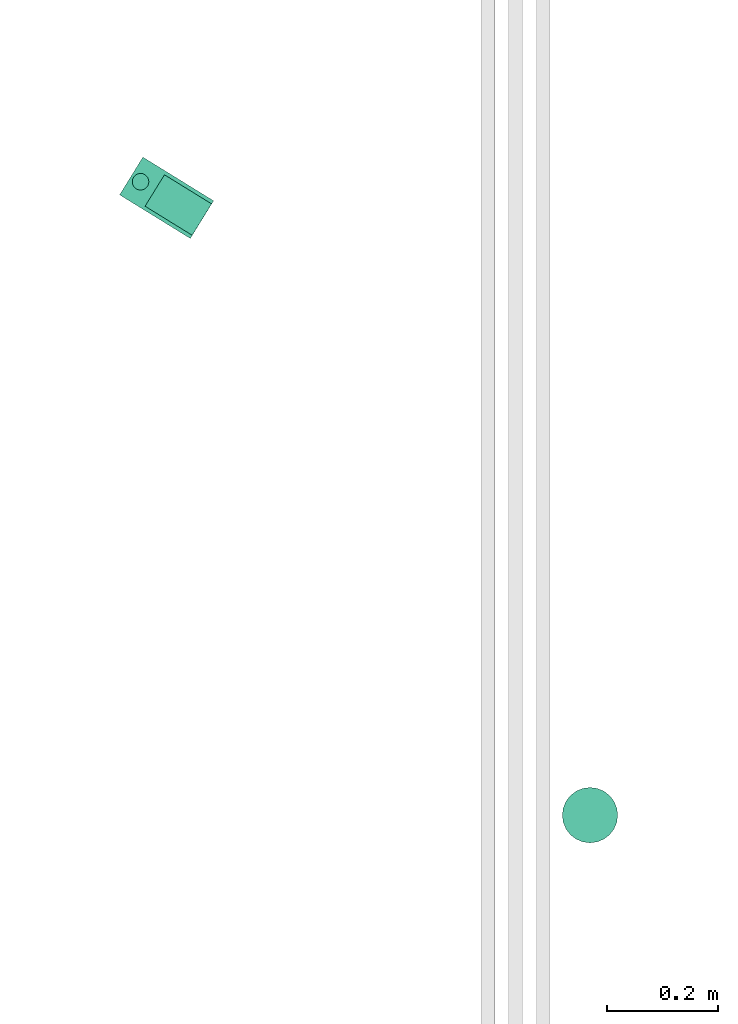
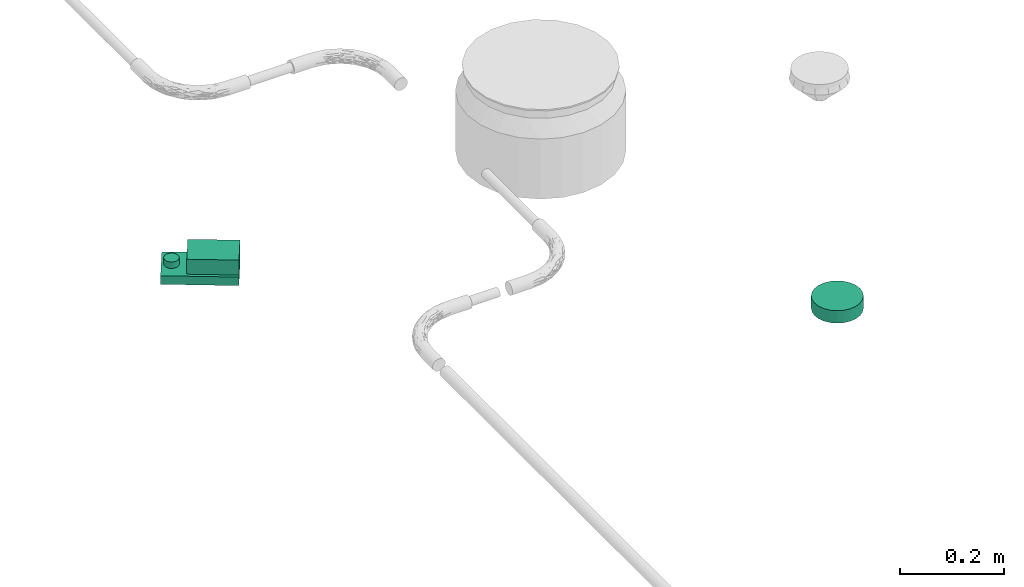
# One storey, part 8 of 51: 2 distribution control elements.
"""IFC2X3 building model written with IfcOpenShell, lengths in millimetres."""

from ifc_helpers import new_model, entity, si_unit, converted_unit, derived_unit, direction, frame, origin_with_axes, place, context, subcontext, project, spatial, open_shell, surface_model, source, transform, mapped, type_object, element, save


model = new_model("IFC2X3")

# Units and contexts
model_context = context("Model", 3, precision=0.01, world=frame((0.0, 4.29681676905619e-09, 0.0)), true_north=direction((4.01073788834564e-13, 1.0)))
plan_context = context("Plan", 3, precision=0.01, world=frame((0.0, 4.29681676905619e-09, 0.0)), true_north=direction((4.01073788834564e-13, 1.0)))
body_context = subcontext(model_context, "Body", "Model", "MODEL_VIEW")
ifc_project = project(units=[converted_unit("PLANEANGLEUNIT", "DEGREE", entity("IfcPositiveLengthMeasure", 0.0174532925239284), si_unit("PLANEANGLEUNIT", "RADIAN"), dimensions=[0, 0, 0, 0, 0, 0, 0]), si_unit("AREAUNIT", "SQUARE_METRE"), si_unit("LENGTHUNIT", "METRE", prefix="MILLI"), si_unit("MASSUNIT", "GRAM", prefix="KILO"), si_unit("POWERUNIT", "WATT"), si_unit("PRESSUREUNIT", "PASCAL"), si_unit("FORCEUNIT", "NEWTON", prefix="KILO"), si_unit("ELECTRICVOLTAGEUNIT", "VOLT"), si_unit("ELECTRICCURRENTUNIT", "AMPERE"), si_unit("THERMODYNAMICTEMPERATUREUNIT", "DEGREE_CELSIUS"), si_unit("TIMEUNIT", "SECOND"), si_unit("VOLUMEUNIT", "CUBIC_METRE"), derived_unit("LINEARVELOCITYUNIT", [(si_unit("LENGTHUNIT", "METRE"), 1), (si_unit("TIMEUNIT", "SECOND"), -1)]), derived_unit("VOLUMETRICFLOWRATEUNIT", [(si_unit("VOLUMEUNIT", "CUBIC_METRE"), 1), (si_unit("TIMEUNIT", "SECOND"), -1)]), derived_unit("THERMALTRANSMITTANCEUNIT", [(si_unit("POWERUNIT", "WATT"), 1), (si_unit("THERMODYNAMICTEMPERATUREUNIT", "KELVIN"), -1), (si_unit("AREAUNIT", "SQUARE_METRE"), -1)]), derived_unit("SOUNDPRESSUREUNIT", [(si_unit("PRESSUREUNIT", "PASCAL"), 1)])], contexts=[model_context, plan_context])

# Site, building, storey
site_placement = place(None, frame((0.0, -4.29681676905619e-09, 0.0), z_axis=(0.0, 0.0, 1.0), x_axis=(1.0, 0.0, 0.0)))
site = spatial("IfcSite", under=ifc_project, at=site_placement, Name="ENGM", CompositionType="ELEMENT")
building_placement = place(site_placement, frame((0.0, 4.29681676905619e-09, 0.0), z_axis=(0.0, 0.0, 1.0), x_axis=(1.0, 0.0, 0.0)))
building = spatial("IfcBuilding", under=site, at=building_placement, Name="TI", CompositionType="ELEMENT")
storey_placement = place(building_placement, frame((0.0, 0.0, 210900.0), z_axis=(0.0, 0.0, 1.0), x_axis=(1.0, 0.0, 0.0)))
storey = spatial("IfcBuildingStorey", under=building, at=storey_placement, Name="Nivå F", CompositionType="ELEMENT", Elevation=210900.0)

# Distribution control elements
alarm_type_1 = type_object("IfcAlarmType", Name="Standard", PredefinedType="NOTDEFINED")
shared_shape_1 = source(origin_with_axes(), body_context, "Body", "SurfaceModel", [
    surface_model("IfcShellBasedSurfaceModel", [(-25.0, 43.30127, -28.9), (-35.35534, 35.35534, -28.9), (-18.0, 31.17691, -28.9), (-25.45584, 25.45584, -28.9), (-9.31749, 34.77333, -28.9), (-12.94095, 48.29629, -28.9), (0.0, 36.0, -28.9), (0.0, 50.0, -28.9), (-34.77333, 9.31749, -28.9), (-43.30127, 25.0, -28.9), (-48.29629, 12.94095, -28.9), (-36.0, 0.0, -28.9), (-50.0, 0.0, -28.9), (-31.17691, 18.0, -28.9), (9.31749, 34.77333, -28.9), (12.94095, 48.29629, -28.9), (18.0, 31.17691, -28.9), (35.35534, 35.35534, -28.9), (25.0, 43.30127, -28.9), (25.45584, 25.45584, -28.9), (31.17691, 18.0, -28.9), (34.77333, 9.31749, -28.9), (43.30127, 25.0, -28.9), (48.29629, 12.94095, -28.9), (36.0, 0.0, -28.9), (50.0, 0.0, -28.9), (-34.77333, -9.31749, -28.9), (-48.29629, -12.94095, -28.9), (-31.17691, -18.0, -28.9), (-43.30127, -25.0, -28.9), (-25.45584, -25.45584, -28.9), (-35.35534, -35.35534, -28.9), (-18.0, -31.17691, -28.9), (-25.0, -43.30127, -28.9), (-9.31749, -34.77333, -28.9), (-12.94095, -48.29629, -28.9), (0.0, -36.0, -28.9), (0.0, -50.0, -28.9), (43.30127, -25.0, -28.9), (31.17691, -18.0, -28.9), (35.35534, -35.35534, -28.9), (34.77333, -9.31749, -28.9), (48.29629, -12.94095, -28.9), (25.45584, -25.45584, -28.9), (9.31749, -34.77333, -28.9), (12.94095, -48.29629, -28.9), (18.0, -31.17691, -28.9), (25.0, -43.30127, -28.9), (-25.0, -43.30127, -29.1), (-35.35534, -35.35534, -29.1), (-18.0, -31.17691, -29.1), (-25.45584, -25.45584, -29.1), (-9.31749, -34.77333, -29.1), (-12.94095, -48.29629, -29.1), (0.0, -36.0, -29.1), (0.0, -50.0, -29.1), (-34.77333, -9.31749, -29.1), (-43.30127, -25.0, -29.1), (-48.29629, -12.94095, -29.1), (-36.0, 0.0, -29.1), (-50.0, 0.0, -29.1), (-31.17691, -18.0, -29.1), (9.31749, -34.77333, -29.1), (12.94095, -48.29629, -29.1), (18.0, -31.17691, -29.1), (35.35534, -35.35534, -29.1), (25.0, -43.30127, -29.1), (25.45584, -25.45584, -29.1), (31.17691, -18.0, -29.1), (34.77333, -9.31749, -29.1), (43.30127, -25.0, -29.1), (48.29629, -12.94095, -29.1), (36.0, 0.0, -29.1), (50.0, 0.0, -29.1), (-34.77333, 9.31749, -29.1), (-48.29629, 12.94095, -29.1), (-31.17691, 18.0, -29.1), (-43.30127, 25.0, -29.1), (-25.45584, 25.45584, -29.1), (-35.35534, 35.35534, -29.1), (-18.0, 31.17691, -29.1), (-25.0, 43.30127, -29.1), (-9.31749, 34.77333, -29.1), (-12.94095, 48.29629, -29.1), (0.0, 36.0, -29.1), (0.0, 50.0, -29.1), (43.30127, 25.0, -29.1), (31.17691, 18.0, -29.1), (35.35534, 35.35534, -29.1), (34.77333, 9.31749, -29.1), (48.29629, 12.94095, -29.1), (25.45584, 25.45584, -29.1), (9.31749, 34.77333, -29.1), (12.94095, 48.29629, -29.1), (18.0, 31.17691, -29.1), (25.0, 43.30127, -29.1), (6.47048, -24.14815, -44.9), (12.5, -21.65064, -44.9), (17.67767, -17.67767, -44.9), (24.14815, -6.47048, -44.9), (-24.14815, -6.47048, -44.9), (21.65064, -12.5, -44.9), (-21.65064, 12.5, -44.9), (0.0, -25.0, -44.9), (-12.5, -21.65064, -44.9), (-6.47048, -24.14815, -44.9), (-17.67767, -17.67767, -44.9), (-21.65064, -12.5, -44.9), (25.0, 0.0, -44.9), (24.14815, 6.47048, -44.9), (21.65064, 12.5, -44.9), (17.67767, 17.67767, -44.9), (12.5, 21.65064, -44.9), (6.47048, 24.14815, -44.9), (0.0, 25.0, -44.9), (-25.0, 0.0, -44.9), (-24.14815, 6.47048, -44.9), (-12.5, 21.65064, -44.9), (-17.67767, 17.67767, -44.9), (-6.47048, 24.14815, -44.9), (0.0, 25.0, -45.1), (6.47048, 24.14815, -45.1), (12.5, 21.65064, -45.1), (-21.65064, 12.5, -45.1), (17.67767, 17.67767, -45.1), (21.65064, 12.5, -45.1), (24.14815, 6.47048, -45.1), (-12.5, 21.65064, -45.1), (-17.67767, 17.67767, -45.1), (-6.47048, 24.14815, -45.1), (-25.0, 0.0, -45.1), (-24.14815, 6.47048, -45.1), (-24.14815, -6.47048, -45.1), (24.14815, -6.47048, -45.1), (6.47048, -24.14815, -45.1), (21.65064, -12.5, -45.1), (17.67767, -17.67767, -45.1), (12.5, -21.65064, -45.1), (-12.5, -21.65064, -45.1), (-17.67767, -17.67767, -45.1), (-21.65064, -12.5, -45.1), (0.0, -25.0, -45.1), (-6.47048, -24.14815, -45.1), (25.0, 0.0, -45.1), (-1.46739, 34.60682, -29.0), (0.0, 34.8, -29.0), (0.0, 35.0, -29.0), (-34.60682, 1.46739, -29.0), (-35.0, 0.0, -29.0), (-34.8, 0.0, -29.0), (-17.5, 30.31089, -29.0), (-18.5742, 29.23669, -29.0), (-17.4, 30.13768, -29.0), (-24.60732, -24.60732, -29.0), (-18.5742, -29.23669, -29.0), (-29.23669, -18.5742, -29.0), (34.8, 0.0, -29.0), (34.60682, -1.46739, -29.0), (35.0, 0.0, -29.0), (17.4, 30.13768, -29.0), (17.5, 30.31089, -29.0), (16.03261, 30.70407, -29.0), (30.13768, 17.4, -29.0), (30.31089, 17.5, -29.0), (29.23669, 18.5742, -29.0), (34.60682, 1.46739, -29.0), (33.61422, -9.0069, -29.0), (30.70407, -16.03261, -29.0), (-33.61422, -9.0069, -29.0), (-30.70407, -16.03261, -29.0), (-34.60682, -1.46739, -29.0), (-30.13768, -17.4, -29.0), (-30.31089, -17.5, -29.0), (-17.5, -30.31089, -29.0), (-17.4, -30.13768, -29.0), (-1.46739, -34.60682, -29.0), (0.0, -35.0, -29.0), (0.0, -34.8, -29.0), (-16.03261, -30.70407, -29.0), (-9.0069, -33.61422, -29.0), (1.46739, -34.60682, -29.0), (30.13768, -17.4, -29.0), (29.23669, -18.5742, -29.0), (30.31089, -17.5, -29.0), (24.60732, -24.60732, -29.0), (18.5742, -29.23669, -29.0), (9.0069, -33.61422, -29.0), (16.03261, -30.70407, -29.0), (-30.13768, 17.4, -29.0), (-30.31089, 17.5, -29.0), (-30.70407, 16.03261, -29.0), (17.4, -30.13768, -29.0), (17.5, -30.31089, -29.0), (-33.61422, 9.0069, -29.0), (-29.23669, 18.5742, -29.0), (-24.60732, 24.60732, -29.0), (-16.03261, 30.70407, -29.0), (-9.0069, 33.61422, -29.0), (1.46739, 34.60682, -29.0), (9.0069, 33.61422, -29.0), (18.5742, 29.23669, -29.0), (24.60732, 24.60732, -29.0), (30.70407, 16.03261, -29.0), (33.61422, 9.0069, -29.0), (23.00389, 18.55381, -38.25), (14.9, 25.80756, -38.25), (21.07178, 21.07178, -38.25), (29.66376, 1.03484, -38.25), (30.0, 0.0, -38.25), (29.8, 0.0, -38.25), (24.27051, 17.63356, -38.25), (24.68215, 16.36666, -38.25), (10.52665, 27.61906, -38.25), (28.78459, 7.71281, -38.25), (-10.52665, 27.61906, -38.25), (-23.00389, 18.55381, -38.25), (-14.9, 25.80756, -38.25), (8.32335, 28.5317, -38.25), (0.0, 29.8, -38.25), (7.71281, 28.78459, -38.25), (-8.32335, 28.5317, -38.25), (-24.68215, 16.36666, -38.25), (-28.78459, 7.71281, -38.25), (-25.80756, 14.9, -38.25), (-9.27051, 28.5317, -38.25), (-29.66376, 1.03484, -38.25), (-29.8, 0.0, -38.25), (-30.0, 0.0, -38.25), (-28.78459, -7.71281, -38.25), (-24.68215, -16.36666, -38.25), (-25.80756, -14.9, -38.25), (29.66376, -1.03484, -38.25), (-7.71281, 28.78459, -38.25), (25.80756, 14.9, -38.25), (14.9, -25.80756, -38.25), (10.52665, -27.61906, -38.25), (23.00389, -18.55381, -38.25), (28.78459, -7.71281, -38.25), (24.68215, -16.36666, -38.25), (0.0, -29.8, -38.25), (-7.71281, -28.78459, -38.25), (-8.32335, -28.5317, -38.25), (8.32335, -28.5317, -38.25), (9.27051, 28.5317, -38.25), (-29.66376, -1.03484, -38.25), (21.07178, -21.07178, -38.25), (-23.00389, -18.55381, -38.25), (-24.27051, -17.63356, -38.25), (-9.27051, -28.5317, -38.25), (-10.52665, -27.61906, -38.25), (-21.07178, -21.07178, -38.25), (-14.9, -25.80756, -38.25), (9.27051, -28.5317, -38.25), (7.71281, -28.78459, -38.25), (24.27051, -17.63356, -38.25), (25.80756, -14.9, -38.25), (-21.07178, 21.07178, -38.25), (-24.27051, 17.63356, -38.25), (33.28589, -6.39713, -29.0), (27.13526, -8.81678, -38.25), (-16.77051, -23.08263, -38.25), (-23.90544, -23.90544, -29.0), (-27.13526, -8.81678, -38.25), (-33.28589, -6.39713, -29.0), (16.77051, -23.08263, -38.25), (8.75, -32.65544, -29.0), (0.0, -28.5317, -38.25), (23.90544, -23.90544, -29.0), (-8.75, -32.65544, -29.0), (-33.28589, 6.39713, -29.0), (-27.13526, 8.81678, -38.25), (16.77051, 23.08263, -38.25), (23.90544, 23.90544, -29.0), (27.13526, 8.81678, -38.25), (33.28589, 6.39713, -29.0), (-16.77051, 23.08263, -38.25), (-8.75, 32.65544, -29.0), (0.0, 28.5317, -38.25), (-23.90544, 23.90544, -29.0), (8.75, 32.65544, -29.0), (12.4, 21.47743, -45.0), (17.53625, 17.53625, -45.0), (19.07577, 15.5299, -45.0), (20.22543, 14.69463, -45.0), (20.59905, 13.54472, -45.0), (24.66376, 1.03484, -45.0), (25.0, 0.0, -45.0), (24.8, 0.0, -45.0), (8.88673, 22.93267, -45.0), (23.95496, 6.41871, -45.0), (-8.88673, 22.93267, -45.0), (-19.07577, 15.5299, -45.0), (-12.4, 21.47743, -45.0), (6.84976, 23.77641, -45.0), (0.0, 24.8, -45.0), (6.41871, 23.95496, -45.0), (-7.72542, 23.77641, -45.0), (-6.84976, 23.77641, -45.0), (-21.47743, 12.4, -45.0), (-20.59905, 13.54472, -45.0), (-23.95496, 6.41871, -45.0), (-25.0, 0.0, -45.0), (-24.66376, 1.03484, -45.0), (-24.8, 0.0, -45.0), (-23.95496, -6.41871, -45.0), (-20.59905, -13.54472, -45.0), (-21.47743, -12.4, -45.0), (-6.41871, 23.95496, -45.0), (24.66376, -1.03484, -45.0), (21.47743, 12.4, -45.0), (12.4, -21.47743, -45.0), (8.88673, -22.93267, -45.0), (19.07577, -15.5299, -45.0), (23.95496, -6.41871, -45.0), (20.59905, -13.54472, -45.0), (0.0, -24.8, -45.0), (-6.41871, -23.95496, -45.0), (-6.84976, -23.77641, -45.0), (7.72542, -23.77641, -45.0), (6.84976, -23.77641, -45.0), (7.72542, 23.77641, -45.0), (-24.66376, -1.03484, -45.0), (17.53625, -17.53625, -45.0), (-20.22543, -14.69463, -45.0), (-19.07577, -15.5299, -45.0), (-8.88673, -22.93267, -45.0), (-7.72542, -23.77641, -45.0), (-17.53625, -17.53625, -45.0), (-12.4, -21.47743, -45.0), (6.41871, -23.95496, -45.0), (20.22543, -14.69463, -45.0), (21.47743, -12.4, -45.0), (-17.53625, 17.53625, -45.0), (-20.22543, 14.69463, -45.0), (-22.61271, -7.34732, -45.0), (-13.97542, -19.23552, -45.0), (0.0, -23.77641, -45.0), (21.83768, -9.73262, -45.0), (13.97542, -19.23552, -45.0), (23.41884, -4.86631, -45.0), (22.61271, 7.34732, -45.0), (13.97542, 19.23552, -45.0), (0.0, 23.77641, -45.0), (-21.83768, 9.73262, -45.0), (-13.97542, 19.23552, -45.0), (-23.41884, 4.86631, -45.0), (12.94095, -48.29629, 0.0), (25.0, -43.30127, 0.0), (35.35534, -35.35534, 0.0), (48.29629, -12.94095, 0.0), (-48.29629, -12.94095, 0.0), (43.30127, -25.0, 0.0), (-43.30127, 25.0, 0.0), (0.0, -50.0, 0.0), (-25.0, -43.30127, 0.0), (-12.94095, -48.29629, 0.0), (-35.35534, -35.35534, 0.0), (-43.30127, -25.0, 0.0), (50.0, 0.0, 0.0), (48.29629, 12.94095, 0.0), (43.30127, 25.0, 0.0), (35.35534, 35.35534, 0.0), (25.0, 43.30127, 0.0), (12.94095, 48.29629, 0.0), (0.0, 50.0, 0.0), (-50.0, 0.0, 0.0), (-48.29629, 12.94095, 0.0), (-25.0, 43.30127, 0.0), (-35.35534, 35.35534, 0.0), (-12.94095, 48.29629, 0.0), (0.0, 50.0, -29.0), (12.94095, 48.29629, -29.0), (25.0, 43.30127, -29.0), (-43.30127, 25.0, -29.0), (35.35534, 35.35534, -29.0), (43.30127, 25.0, -29.0), (48.29629, 12.94095, -29.0), (-25.0, 43.30127, -29.0), (-35.35534, 35.35534, -29.0), (-12.94095, 48.29629, -29.0), (-50.0, 0.0, -29.0), (-48.29629, 12.94095, -29.0), (-48.29629, -12.94095, -29.0), (48.29629, -12.94095, -29.0), (12.94095, -48.29629, -29.0), (43.30127, -25.0, -29.0), (35.35534, -35.35534, -29.0), (25.0, -43.30127, -29.0), (-25.0, -43.30127, -29.0), (-35.35534, -35.35534, -29.0), (-43.30127, -25.0, -29.0), (0.0, -50.0, -29.0), (-12.94095, -48.29629, -29.0), (50.0, 0.0, -29.0)], [open_shell([[[0, 1, 2]], [[2, 1, 3]], [[0, 2, 4]], [[5, 4, 6]], [[4, 5, 0]], [[5, 6, 7]], [[8, 9, 10]], [[11, 10, 12]], [[8, 10, 11]], [[13, 3, 9]], [[8, 13, 9]], [[9, 3, 1]], [[7, 14, 15]], [[14, 7, 6]], [[15, 14, 16]], [[17, 18, 19]], [[16, 18, 15]], [[19, 18, 16]], [[20, 21, 22]], [[20, 22, 17]], [[21, 23, 22]], [[23, 21, 24]], [[23, 24, 25]], [[20, 17, 19]], [[26, 12, 27]], [[28, 27, 29]], [[28, 26, 27]], [[30, 28, 29]], [[29, 31, 30]], [[32, 31, 33]], [[31, 32, 30]], [[32, 33, 34]], [[34, 35, 36]], [[35, 34, 33]], [[36, 35, 37]], [[38, 39, 40]], [[41, 39, 42]], [[41, 42, 25]], [[42, 39, 38]], [[39, 43, 40]], [[25, 24, 41]], [[44, 37, 45]], [[37, 44, 36]], [[44, 45, 46]], [[47, 40, 43]], [[47, 46, 45]], [[47, 43, 46]], [[26, 11, 12]], [[48, 49, 50]], [[50, 49, 51]], [[48, 50, 52]], [[53, 52, 54]], [[52, 53, 48]], [[53, 54, 55]], [[56, 57, 58]], [[59, 58, 60]], [[56, 58, 59]], [[61, 51, 57]], [[56, 61, 57]], [[57, 51, 49]], [[55, 62, 63]], [[62, 55, 54]], [[63, 62, 64]], [[65, 66, 67]], [[64, 66, 63]], [[67, 66, 64]], [[68, 69, 70]], [[68, 70, 65]], [[69, 71, 70]], [[71, 69, 72]], [[71, 72, 73]], [[68, 65, 67]], [[74, 60, 75]], [[76, 75, 77]], [[76, 74, 75]], [[78, 76, 77]], [[77, 79, 78]], [[80, 79, 81]], [[79, 80, 78]], [[80, 81, 82]], [[82, 83, 84]], [[83, 82, 81]], [[84, 83, 85]], [[86, 87, 88]], [[89, 87, 90]], [[89, 90, 73]], [[90, 87, 86]], [[87, 91, 88]], [[73, 72, 89]], [[92, 85, 93]], [[85, 92, 84]], [[92, 93, 94]], [[95, 88, 91]], [[95, 94, 93]], [[95, 91, 94]], [[74, 59, 60]], [[11, 59, 8]], [[8, 74, 13]], [[2, 3, 78]], [[76, 3, 13]], [[4, 2, 80]], [[74, 76, 13]], [[8, 59, 74]], [[84, 6, 82]], [[4, 80, 82]], [[80, 2, 78]], [[3, 76, 78]], [[4, 82, 6]], [[14, 92, 16]], [[16, 94, 19]], [[21, 20, 87]], [[91, 20, 19]], [[24, 21, 89]], [[92, 94, 16]], [[14, 84, 92]], [[21, 87, 89]], [[87, 20, 91]], [[19, 94, 91]], [[24, 89, 72]], [[6, 84, 14]], [[24, 72, 41]], [[41, 69, 39]], [[46, 43, 67]], [[68, 43, 39]], [[44, 46, 64]], [[69, 68, 39]], [[41, 72, 69]], [[54, 36, 62]], [[44, 64, 62]], [[64, 46, 67]], [[43, 68, 67]], [[44, 62, 36]], [[34, 52, 32]], [[32, 50, 30]], [[26, 28, 61]], [[51, 28, 30]], [[11, 26, 56]], [[52, 50, 32]], [[34, 54, 52]], [[26, 61, 56]], [[61, 28, 51]], [[30, 50, 51]], [[11, 56, 59]], [[36, 54, 34]], [[58, 27, 60]], [[57, 29, 58]], [[33, 49, 48]], [[57, 49, 31]], [[35, 48, 53]], [[58, 29, 27]], [[27, 12, 60]], [[35, 33, 48]], [[31, 49, 33]], [[31, 29, 57]], [[37, 35, 53]], [[53, 55, 37]], [[63, 45, 55]], [[66, 47, 63]], [[38, 65, 70]], [[66, 65, 40]], [[42, 70, 71]], [[66, 40, 47]], [[47, 45, 63]], [[25, 42, 71]], [[38, 70, 42]], [[38, 40, 65]], [[73, 25, 71]], [[55, 45, 37]], [[90, 23, 73]], [[86, 22, 90]], [[18, 88, 95]], [[86, 88, 17]], [[15, 95, 93]], [[90, 22, 23]], [[23, 25, 73]], [[15, 18, 95]], [[17, 88, 18]], [[17, 22, 86]], [[7, 15, 93]], [[93, 85, 7]], [[83, 5, 85]], [[81, 0, 83]], [[9, 79, 77]], [[81, 79, 1]], [[10, 77, 75]], [[81, 1, 0]], [[0, 5, 83]], [[12, 10, 75]], [[9, 77, 10]], [[9, 1, 79]], [[60, 12, 75]], [[85, 5, 7]], [[96, 97, 98]], [[96, 98, 99]], [[96, 99, 100]], [[99, 98, 101]], [[102, 100, 99]], [[103, 104, 105]], [[103, 96, 104]], [[106, 100, 107]], [[106, 104, 96]], [[100, 106, 96]], [[99, 108, 102]], [[109, 110, 111]], [[109, 111, 112]], [[112, 113, 114]], [[109, 112, 102]], [[102, 112, 114]], [[115, 102, 116]], [[100, 102, 115]], [[102, 117, 118]], [[117, 102, 119]], [[114, 119, 102]], [[102, 108, 109]], [[120, 121, 122]], [[123, 120, 122]], [[124, 125, 126]], [[124, 126, 122]], [[123, 122, 126]], [[127, 123, 128]], [[123, 127, 129]], [[123, 130, 131]], [[123, 129, 120]], [[123, 132, 130]], [[123, 126, 133]], [[132, 123, 133]], [[134, 133, 135]], [[136, 137, 134]], [[136, 134, 135]], [[138, 133, 134]], [[132, 139, 140]], [[132, 133, 139]], [[138, 141, 142]], [[139, 133, 138]], [[134, 141, 138]], [[133, 126, 143]], [[132, 100, 130]], [[140, 107, 132]], [[104, 139, 138]], [[140, 139, 106]], [[105, 138, 142]], [[132, 107, 100]], [[100, 115, 130]], [[105, 104, 138]], [[106, 139, 104]], [[106, 107, 140]], [[103, 105, 142]], [[142, 141, 103]], [[134, 96, 141]], [[137, 97, 134]], [[101, 136, 135]], [[137, 136, 98]], [[99, 135, 133]], [[137, 98, 97]], [[97, 96, 134]], [[108, 99, 133]], [[101, 135, 99]], [[101, 98, 136]], [[143, 108, 133]], [[141, 96, 103]], [[126, 109, 143]], [[125, 110, 126]], [[112, 124, 122]], [[125, 124, 111]], [[113, 122, 121]], [[126, 110, 109]], [[109, 108, 143]], [[113, 112, 122]], [[111, 124, 112]], [[111, 110, 125]], [[114, 113, 121]], [[121, 120, 114]], [[129, 119, 120]], [[127, 117, 129]], [[102, 128, 123]], [[127, 128, 118]], [[116, 123, 131]], [[127, 118, 117]], [[117, 119, 129]], [[115, 116, 131]], [[102, 123, 116]], [[102, 118, 128]], [[130, 115, 131]], [[120, 119, 114]], [[144, 145, 146]], [[147, 148, 149]], [[150, 151, 152]], [[153, 154, 155]], [[156, 157, 158]], [[159, 160, 161]], [[162, 163, 164]], [[156, 158, 165]], [[166, 157, 167]], [[168, 169, 170]], [[170, 149, 148]], [[171, 169, 172]], [[173, 174, 154]], [[175, 176, 177]], [[174, 173, 178]], [[155, 171, 172]], [[179, 175, 178]], [[180, 177, 176]], [[181, 182, 183]], [[181, 183, 167]], [[184, 182, 185]], [[186, 187, 180]], [[188, 189, 190]], [[191, 192, 185]], [[191, 187, 192]], [[193, 147, 190]], [[188, 194, 189]], [[195, 194, 151]], [[152, 196, 150]], [[197, 196, 144]], [[145, 198, 146]], [[199, 198, 161]], [[159, 200, 160]], [[201, 200, 164]], [[162, 202, 163]], [[203, 202, 165]], [[204, 205, 206]], [[207, 208, 209]], [[204, 210, 211]], [[205, 204, 212]], [[213, 207, 211]], [[214, 215, 216]], [[217, 218, 219]], [[218, 217, 220]], [[221, 222, 223]], [[220, 214, 224]], [[225, 226, 227]], [[228, 229, 230]], [[209, 208, 231]], [[218, 220, 232]], [[213, 211, 233]], [[234, 235, 236]], [[237, 238, 231]], [[239, 240, 241]], [[241, 242, 239]], [[243, 212, 217]], [[227, 226, 244]], [[234, 236, 245]], [[229, 246, 247]], [[241, 248, 249]], [[250, 246, 251]], [[228, 244, 229]], [[235, 252, 242]], [[239, 242, 253]], [[236, 238, 254]], [[238, 237, 255]], [[251, 246, 249]], [[216, 215, 256]], [[215, 221, 257]], [[222, 221, 225]], [[208, 158, 258]], [[183, 259, 258]], [[260, 261, 247]], [[172, 262, 247]], [[263, 227, 262]], [[192, 252, 264]], [[260, 248, 173]], [[261, 260, 173]], [[252, 265, 266]], [[227, 263, 148]], [[172, 263, 262]], [[258, 259, 208]], [[254, 267, 264]], [[268, 173, 248]], [[252, 192, 265]], [[192, 264, 267]], [[267, 254, 183]], [[259, 183, 254]], [[268, 266, 176]], [[265, 176, 266]], [[248, 266, 268]], [[172, 247, 261]], [[227, 148, 269]], [[189, 270, 269]], [[271, 272, 210]], [[163, 273, 210]], [[274, 208, 273]], [[150, 224, 275]], [[271, 243, 160]], [[272, 271, 160]], [[224, 276, 277]], [[208, 274, 158]], [[163, 274, 273]], [[269, 270, 227]], [[257, 278, 275]], [[279, 160, 243]], [[224, 150, 276]], [[150, 275, 278]], [[278, 257, 189]], [[270, 189, 257]], [[279, 277, 146]], [[276, 146, 277]], [[243, 277, 279]], [[163, 210, 272]], [[171, 230, 228]], [[168, 228, 226]], [[179, 240, 251]], [[174, 251, 250]], [[153, 250, 230]], [[168, 171, 228]], [[226, 149, 168]], [[251, 174, 179]], [[174, 250, 153]], [[230, 171, 153]], [[240, 179, 177]], [[177, 239, 240]], [[184, 245, 234]], [[191, 234, 253]], [[156, 209, 237]], [[166, 237, 255]], [[181, 255, 245]], [[239, 186, 253]], [[186, 191, 253]], [[177, 186, 239]], [[184, 181, 245]], [[191, 184, 234]], [[181, 166, 255]], [[166, 156, 237]], [[162, 233, 213]], [[203, 213, 209]], [[199, 219, 205]], [[159, 205, 206]], [[201, 206, 233]], [[203, 162, 213]], [[209, 156, 203]], [[205, 159, 199]], [[159, 206, 201]], [[233, 162, 201]], [[219, 199, 145]], [[145, 218, 219]], [[195, 256, 216]], [[152, 216, 232]], [[149, 226, 222]], [[193, 222, 223]], [[188, 223, 256]], [[218, 197, 232]], [[197, 152, 232]], [[145, 197, 218]], [[195, 188, 256]], [[152, 195, 216]], [[188, 193, 223]], [[193, 149, 222]], [[215, 216, 256]], [[221, 222, 225]], [[225, 227, 226]], [[257, 221, 215]], [[216, 215, 214]], [[212, 204, 205]], [[220, 218, 232]], [[218, 220, 217]], [[217, 212, 243]], [[233, 211, 213]], [[208, 207, 209]], [[237, 238, 255]], [[252, 235, 242]], [[218, 217, 219]], [[227, 244, 226]], [[222, 221, 223]], [[228, 229, 244]], [[239, 253, 242]], [[246, 251, 249]], [[249, 248, 241]], [[231, 238, 237]], [[208, 209, 231]], [[251, 246, 250]], [[254, 238, 236]], [[236, 234, 245]], [[214, 220, 224]], [[242, 241, 239]], [[239, 241, 240]], [[246, 229, 247]], [[230, 229, 228]], [[234, 236, 235]], [[205, 204, 206]], [[204, 211, 210]], [[213, 211, 207]], [[280, 281, 282]], [[282, 283, 284]], [[285, 286, 287]], [[280, 282, 288]], [[289, 285, 284]], [[290, 291, 292]], [[293, 294, 295]], [[290, 296, 297]], [[294, 293, 297]], [[298, 299, 300]], [[301, 302, 303]], [[304, 305, 306]], [[294, 297, 307]], [[308, 287, 286]], [[289, 284, 309]], [[310, 311, 312]], [[313, 314, 308]], [[315, 316, 317]], [[311, 318, 319]], [[293, 320, 288]], [[301, 303, 321]], [[310, 312, 322]], [[323, 305, 324]], [[325, 317, 326]], [[327, 324, 328]], [[304, 321, 305]], [[317, 319, 315]], [[315, 319, 329]], [[312, 314, 330]], [[331, 314, 313]], [[328, 324, 325]], [[292, 291, 332]], [[291, 299, 333]], [[300, 299, 302]], [[262, 301, 334]], [[334, 323, 247]], [[248, 335, 326]], [[301, 262, 227]], [[334, 247, 262]], [[260, 323, 335]], [[266, 248, 326]], [[336, 252, 266]], [[252, 336, 318]], [[323, 260, 247]], [[248, 260, 335]], [[254, 337, 259]], [[318, 264, 252]], [[338, 254, 264]], [[339, 286, 208]], [[264, 318, 338]], [[259, 339, 208]], [[338, 330, 254]], [[266, 326, 336]], [[259, 337, 339]], [[337, 254, 330]], [[273, 286, 340]], [[340, 283, 210]], [[243, 341, 320]], [[286, 273, 208]], [[340, 210, 273]], [[271, 283, 341]], [[277, 243, 320]], [[342, 224, 277]], [[224, 342, 296]], [[283, 271, 210]], [[243, 271, 341]], [[257, 343, 270]], [[296, 275, 224]], [[344, 257, 275]], [[345, 301, 227]], [[275, 296, 344]], [[270, 345, 227]], [[344, 333, 257]], [[277, 320, 342]], [[270, 343, 345]], [[343, 257, 333]], [[230, 306, 304]], [[228, 304, 303]], [[240, 316, 328]], [[251, 328, 327]], [[250, 327, 306]], [[228, 230, 304]], [[303, 226, 228]], [[328, 251, 240]], [[251, 327, 250]], [[306, 230, 250]], [[316, 240, 239]], [[239, 315, 316]], [[245, 322, 310]], [[234, 310, 329]], [[209, 287, 313]], [[237, 313, 331]], [[255, 331, 322]], [[315, 253, 329]], [[253, 234, 329]], [[239, 253, 315]], [[255, 322, 245]], [[234, 245, 310]], [[331, 255, 237]], [[237, 209, 313]], [[233, 309, 289]], [[213, 289, 287]], [[219, 295, 280]], [[205, 280, 281]], [[206, 281, 309]], [[213, 233, 289]], [[287, 209, 213]], [[280, 205, 219]], [[205, 281, 206]], [[309, 233, 206]], [[295, 219, 218]], [[218, 294, 295]], [[256, 332, 292]], [[216, 292, 307]], [[226, 303, 300]], [[222, 300, 298]], [[223, 298, 332]], [[294, 232, 307]], [[232, 216, 307]], [[218, 232, 294]], [[223, 332, 256]], [[216, 256, 292]], [[298, 223, 222]], [[222, 226, 300]], [[346, 347, 348]], [[346, 348, 349]], [[346, 349, 350]], [[349, 348, 351]], [[352, 350, 349]], [[353, 354, 355]], [[353, 346, 354]], [[356, 350, 357]], [[356, 354, 346]], [[350, 356, 346]], [[349, 358, 352]], [[359, 360, 361]], [[359, 361, 362]], [[362, 363, 364]], [[359, 362, 352]], [[352, 362, 364]], [[365, 352, 366]], [[350, 352, 365]], [[352, 367, 368]], [[367, 352, 369]], [[364, 369, 352]], [[352, 358, 359]], [[370, 371, 372]], [[373, 370, 372]], [[374, 375, 376]], [[374, 376, 372]], [[373, 372, 376]], [[377, 373, 378]], [[373, 377, 379]], [[373, 380, 381]], [[373, 379, 370]], [[373, 382, 380]], [[373, 376, 383]], [[382, 373, 383]], [[384, 383, 385]], [[386, 387, 384]], [[386, 384, 385]], [[388, 383, 384]], [[382, 389, 390]], [[382, 383, 389]], [[388, 391, 392]], [[389, 383, 388]], [[384, 391, 388]], [[383, 376, 393]], [[382, 350, 380]], [[390, 357, 382]], [[354, 389, 388]], [[390, 389, 356]], [[355, 388, 392]], [[382, 357, 350]], [[350, 365, 380]], [[355, 354, 388]], [[356, 389, 354]], [[356, 357, 390]], [[353, 355, 392]], [[392, 391, 353]], [[384, 346, 391]], [[387, 347, 384]], [[351, 386, 385]], [[387, 386, 348]], [[349, 385, 383]], [[387, 348, 347]], [[347, 346, 384]], [[358, 349, 383]], [[351, 385, 349]], [[351, 348, 386]], [[393, 358, 383]], [[391, 346, 353]], [[376, 359, 393]], [[375, 360, 376]], [[362, 374, 372]], [[375, 374, 361]], [[363, 372, 371]], [[376, 360, 359]], [[359, 358, 393]], [[363, 362, 372]], [[361, 374, 362]], [[361, 360, 375]], [[364, 363, 371]], [[371, 370, 364]], [[369, 370, 379]], [[367, 379, 377]], [[352, 373, 381]], [[366, 381, 380]], [[379, 367, 369]], [[367, 377, 378]], [[367, 378, 368]], [[368, 378, 352]], [[352, 378, 373]], [[352, 381, 366]], [[380, 365, 366]], [[370, 369, 364]]])]),
])
distribution_control_element_1_placement = place(storey_placement, frame((610109.0, 692660.0, 2760.0), z_axis=(0.0, 0.0, 1.0), x_axis=(1.0, 0.0, 0.0)))
element("IfcDistributionControlElement", 1, at=distribution_control_element_1_placement, inside=storey, type_object=alarm_type_1, Name="Standard", context=body_context, shape_type="MappedRepresentation", body=[
    mapped(shared_shape_1, transform((0.0, 0.0, 0.0), scale=1.0)),
])
alarm_type_2 = type_object("IfcAlarmType", Name="Brann Spjeld", PredefinedType="NOTDEFINED")
shared_shape_2 = source(origin_with_axes(), body_context, "Body", "SurfaceModel", [
    surface_model("IfcShellBasedSurfaceModel", [(-72.68295, -12.99038, 40.0), (-80.18294, -15.0, 40.0), (-76.30066, -14.48889, 40.0), (-65.69406, -3.88229, 40.0), (-69.57634, -10.6066, 40.0), (-94.67183, -3.88229, 40.0), (-95.18294, 0.0, 40.0), (-67.19256, -7.5, 40.0), (-87.68295, -12.99038, 40.0), (-84.06523, -14.48889, 40.0), (-93.17333, -7.5, 40.0), (-90.78954, -10.6066, 40.0), (-65.18294, 0.0, 40.0), (-65.69406, 3.88229, 40.0), (-67.19256, 7.5, 40.0), (-72.68295, 12.99038, 40.0), (-69.57634, 10.6066, 40.0), (-76.30066, 14.48889, 40.0), (-87.68295, 12.99038, 40.0), (-80.18294, 15.0, 40.0), (-93.17333, 7.5, 40.0), (-94.67183, 3.88229, 40.0), (-90.78954, 10.6066, 40.0), (-84.06523, 14.48889, 40.0), (-76.30066, 14.48889, 0.0), (-95.18294, 0.0, 0.0), (-80.18294, 15.0, 0.0), (-67.19256, 7.5, 0.0), (-72.68295, 12.99038, 0.0), (-69.57634, 10.6066, 0.0), (-94.67183, -3.88229, 0.0), (-87.68295, 12.99038, 0.0), (-93.17333, 7.5, 0.0), (-90.78954, 10.6066, 0.0), (-84.06523, 14.48889, 0.0), (-94.67183, 3.88229, 0.0), (-65.69406, 3.88229, 0.0), (-65.69406, -3.88229, 0.0), (-72.68295, -12.99038, 0.0), (-67.19256, -7.5, 0.0), (-69.57634, -10.6066, 0.0), (-76.30066, -14.48889, 0.0), (-93.17333, -7.5, 0.0), (-87.68295, -12.99038, 0.0), (-90.78954, -10.6066, 0.0), (-80.18294, -15.0, 0.0), (-84.06523, -14.48889, 0.0), (-65.18294, 0.0, 0.0), (50.0, -33.30706, 60.0), (50.0, 33.35938, 60.0), (-50.0, 33.35938, 60.0), (-50.0, -33.30706, 60.0), (-50.0, -33.30706, 25.0), (-50.0, 33.35938, 25.0), (50.0, 33.35938, 25.0), (50.0, -33.30706, 25.0), (50.14702, -40.00696, 25.0), (50.14702, 39.99304, 25.0), (-99.85298, 39.99304, 25.0), (-99.85298, -40.00696, 25.0), (-99.85298, -40.00696, 5.0), (-99.85298, 39.99304, 5.0), (50.14702, 39.99304, 5.0), (50.14702, -40.00696, 5.0)], [open_shell([[[0, 1, 2]], [[3, 0, 4]], [[5, 0, 6]], [[3, 4, 7]], [[0, 3, 6]], [[1, 8, 9]], [[8, 1, 5]], [[8, 10, 11]], [[10, 8, 5]], [[1, 0, 5]], [[3, 12, 13]], [[6, 3, 14]], [[15, 14, 16]], [[6, 14, 17]], [[17, 14, 15]], [[18, 17, 19]], [[6, 20, 21]], [[6, 17, 20]], [[20, 18, 22]], [[17, 18, 20]], [[19, 23, 18]], [[14, 3, 13]], [[24, 25, 26]], [[27, 24, 28]], [[25, 24, 27]], [[27, 28, 29]], [[30, 25, 27]], [[31, 32, 33]], [[31, 34, 26]], [[32, 25, 35]], [[32, 31, 26]], [[25, 32, 26]], [[27, 36, 30]], [[30, 36, 37]], [[38, 37, 39]], [[30, 37, 38]], [[38, 39, 40]], [[30, 38, 41]], [[42, 43, 44]], [[43, 42, 30]], [[43, 45, 46]], [[45, 43, 30]], [[30, 41, 45]], [[37, 36, 47]], [[5, 30, 42]], [[44, 10, 42]], [[8, 43, 46]], [[44, 43, 11]], [[9, 46, 45]], [[30, 6, 25]], [[30, 5, 6]], [[42, 10, 5]], [[44, 11, 10]], [[8, 11, 43]], [[46, 9, 8]], [[45, 1, 9]], [[2, 41, 38]], [[40, 0, 38]], [[7, 39, 37]], [[40, 39, 4]], [[3, 37, 47]], [[41, 2, 1]], [[38, 0, 2]], [[40, 4, 0]], [[39, 7, 4]], [[3, 7, 37]], [[47, 12, 3]], [[41, 1, 45]], [[36, 13, 47]], [[27, 14, 36]], [[17, 24, 26]], [[29, 16, 27]], [[36, 14, 13]], [[13, 12, 47]], [[28, 15, 16]], [[28, 24, 15]], [[24, 17, 15]], [[16, 14, 27]], [[16, 29, 28]], [[26, 19, 17]], [[23, 34, 31]], [[33, 18, 31]], [[20, 32, 35]], [[33, 32, 22]], [[21, 35, 25]], [[34, 23, 19]], [[31, 18, 23]], [[33, 22, 18]], [[32, 20, 22]], [[21, 20, 35]], [[25, 6, 21]], [[34, 19, 26]], [[48, 49, 50]], [[50, 51, 48]], [[52, 53, 54]], [[54, 55, 52]], [[50, 49, 54]], [[54, 53, 50]], [[51, 50, 53]], [[53, 52, 51]], [[48, 51, 52]], [[52, 55, 48]], [[49, 48, 55]], [[55, 54, 49]], [[56, 57, 58]], [[58, 59, 56]], [[60, 61, 62]], [[62, 63, 60]], [[58, 57, 62]], [[62, 61, 58]], [[59, 58, 61]], [[61, 60, 59]], [[56, 59, 60]], [[60, 63, 56]], [[57, 56, 63]], [[63, 62, 57]]])]),
])
distribution_control_element_2_placement = place(storey_placement, frame((609365.84661, 693761.34909, 2400.0), z_axis=(0.0, 0.0, 1.0), x_axis=(0.850868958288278, -0.525377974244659, 0.0)))
element("IfcDistributionControlElement", 2, at=distribution_control_element_2_placement, inside=storey, type_object=alarm_type_2, Name="Brann Spjeld", context=body_context, shape_type="MappedRepresentation", body=[
    mapped(shared_shape_2, transform((0.0, 0.0, 0.0), scale=1.0)),
])

save(model, "model.ifc")
